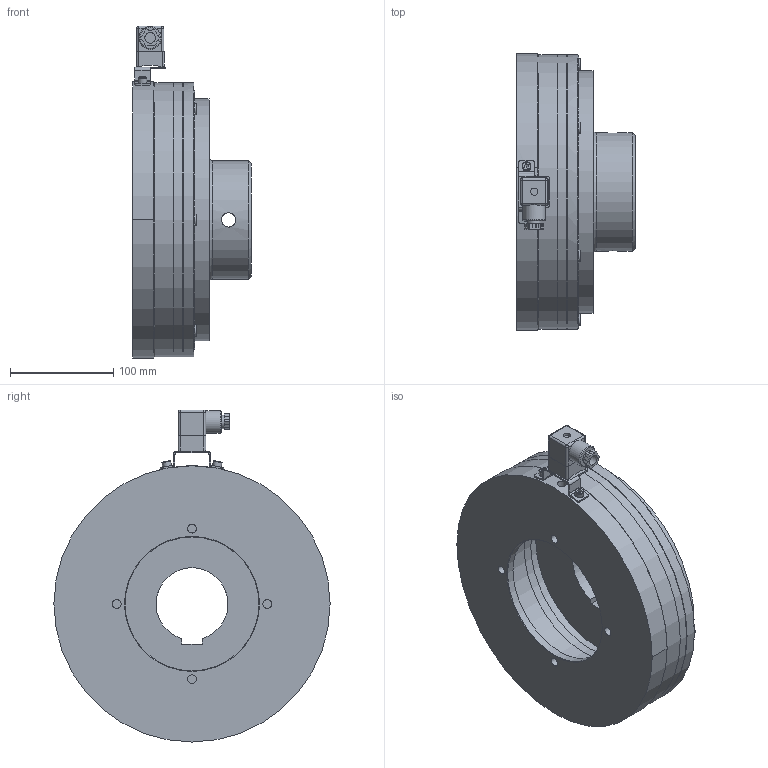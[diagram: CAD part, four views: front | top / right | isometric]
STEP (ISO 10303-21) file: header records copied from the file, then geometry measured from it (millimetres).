
FILE_DESCRIPTION(/* description */ (''),/* implementation_level */ '2;1');
FILE_NAME(/* name */ 'X:\INVENTOR\DISEGNI\08_Freni_Friz_Elettmag_Monodisco\08_28 EMFL_DF\EMFL_DF STEP\08_28_260_12 EMFL260_DF-C-ME_S@STEP.stp',/* time_stamp */ '2018-04-23T10:56:25+02:00',/* author */ ('stefano'),/* organization */ (''),/* preprocessor_version */ 'ST-DEVELOPER v17',/* originating_system */ 'Autodesk Inventor 2018',/* authorisation */ '');
FILE_SCHEMA (('AUTOMOTIVE_DESIGN { 1 0 10303 214 3 1 1 }'));
Length unit declared in the file: millimetre
Products named in the file (1): 08_28_260_12 EMFL260_DF-C-ME - Spina_Substitute_1
Bounding box: 115 x 268 x 322.16 mm (x, y, z)
Volume: 2513297.8 mm3; surface area: 444898.1 mm2
Topology: 2 solids, 2 shells, 576 faces, 1727 edges, 1137 vertices
Faces by surface type: cylinder 300, plane 204, cone 54, torus 14, sphere 4
Full cylindrical faces by diameter (mm): 2 x1, 6.647 x6, 7 x13, 7.1 x24, 8.5 x6, 9 x2, 10.5 x1, 11 x36, 12.5 x6, 13 x7, 13.835 x2, 22 x1, 115 x1, 130 x1, 162 x2, 170 x1, 194 x1, 202.5 x2, 235 x1, 236.5 x2, 243 x1, 266 x3
Entity records: 21055 total; most frequent: CARTESIAN_POINT 4113, DIRECTION 3729, ORIENTED_EDGE 3414, EDGE_CURVE 1707, AXIS2_PLACEMENT_3D 1551, VERTEX_POINT 1141, CIRCLE 974, EDGE_LOOP 702
